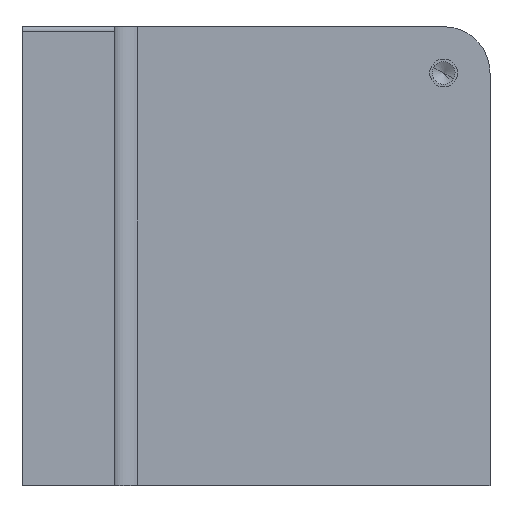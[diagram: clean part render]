
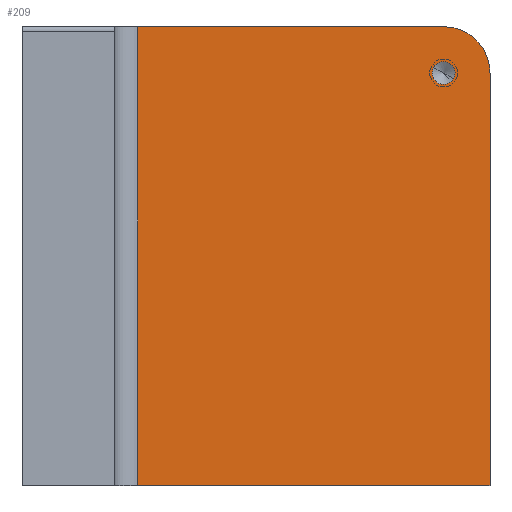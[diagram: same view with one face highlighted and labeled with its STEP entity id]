
A CAD part, top view. The second image highlights one B-rep face of the part: STEP entity #209.
In plain terms, the highlighted planar face has unit normal (0, 0, 1).
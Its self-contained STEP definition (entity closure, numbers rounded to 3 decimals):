
#144=CARTESIAN_POINT('Axis2P3D Location',(0.,0.,20.)) ;
#149=CARTESIAN_POINT('Line Origine',(63.,0.,20.)) ;
#153=CARTESIAN_POINT('Vertex',(25.,0.,20.)) ;
#155=CARTESIAN_POINT('Vertex',(101.,0.,20.)) ;
#158=CARTESIAN_POINT('Line Origine',(101.,44.5,20.)) ;
#162=CARTESIAN_POINT('Vertex',(101.,89.,20.)) ;
#165=CARTESIAN_POINT('Axis2P3D Location',(91.,89.,20.)) ;
#169=CARTESIAN_POINT('Vertex',(91.,99.,20.)) ;
#172=CARTESIAN_POINT('Line Origine',(58.,99.,20.)) ;
#176=CARTESIAN_POINT('Vertex',(25.,99.,20.)) ;
#179=CARTESIAN_POINT('Line Origine',(25.,49.5,20.)) ;
#191=CARTESIAN_POINT('Axis2P3D Location',(91.,89.,20.)) ;
#195=CARTESIAN_POINT('Vertex',(88.842,90.179,20.)) ;
#197=CARTESIAN_POINT('Vertex',(93.158,87.821,20.)) ;
#200=CARTESIAN_POINT('Axis2P3D Location',(91.,89.,20.)) ;
#145=DIRECTION('Axis2P3D Direction',(0.,0.,1.)) ;
#146=DIRECTION('Axis2P3D XDirection',(1.,0.,0.)) ;
#150=DIRECTION('Vector Direction',(1.,0.,0.)) ;
#159=DIRECTION('Vector Direction',(0.,1.,0.)) ;
#166=DIRECTION('Axis2P3D Direction',(0.,0.,1.)) ;
#173=DIRECTION('Vector Direction',(-1.,0.,0.)) ;
#180=DIRECTION('Vector Direction',(0.,-1.,0.)) ;
#192=DIRECTION('Axis2P3D Direction',(0.,0.,1.)) ;
#201=DIRECTION('Axis2P3D Direction',(0.,0.,1.)) ;
#147=AXIS2_PLACEMENT_3D('Plane Axis2P3D',#144,#145,#146) ;
#167=AXIS2_PLACEMENT_3D('Circle Axis2P3D',#165,#166,$) ;
#193=AXIS2_PLACEMENT_3D('Circle Axis2P3D',#191,#192,$) ;
#202=AXIS2_PLACEMENT_3D('Circle Axis2P3D',#200,#201,$) ;
#185=ORIENTED_EDGE('',*,*,#157,.T.) ;
#186=ORIENTED_EDGE('',*,*,#164,.T.) ;
#187=ORIENTED_EDGE('',*,*,#171,.T.) ;
#188=ORIENTED_EDGE('',*,*,#178,.T.) ;
#189=ORIENTED_EDGE('',*,*,#183,.F.) ;
#206=ORIENTED_EDGE('',*,*,#199,.F.) ;
#207=ORIENTED_EDGE('',*,*,#204,.F.) ;
#208=FACE_BOUND('',#205,.T.) ;
#151=VECTOR('Line Direction',#150,1.) ;
#160=VECTOR('Line Direction',#159,1.) ;
#174=VECTOR('Line Direction',#173,1.) ;
#181=VECTOR('Line Direction',#180,1.) ;
#209=ADVANCED_FACE('PartBody',(#190,#208),#148,.T.) ;
#168=CIRCLE('generated circle',#167,10.) ;
#194=CIRCLE('generated circle',#193,2.459) ;
#203=CIRCLE('generated circle',#202,2.459) ;
#157=EDGE_CURVE('',#154,#156,#152,.T.) ;
#164=EDGE_CURVE('',#156,#163,#161,.T.) ;
#171=EDGE_CURVE('',#163,#170,#168,.T.) ;
#178=EDGE_CURVE('',#170,#177,#175,.T.) ;
#183=EDGE_CURVE('',#154,#177,#182,.F.) ;
#199=EDGE_CURVE('',#196,#198,#194,.T.) ;
#204=EDGE_CURVE('',#198,#196,#203,.T.) ;
#184=EDGE_LOOP('',(#185,#186,#187,#188,#189)) ;
#205=EDGE_LOOP('',(#206,#207)) ;
#190=FACE_OUTER_BOUND('',#184,.T.) ;
#152=LINE('Line',#149,#151) ;
#161=LINE('Line',#158,#160) ;
#175=LINE('Line',#172,#174) ;
#182=LINE('Line',#179,#181) ;
#148=PLANE('',#147) ;
#154=VERTEX_POINT('',#153) ;
#156=VERTEX_POINT('',#155) ;
#163=VERTEX_POINT('',#162) ;
#170=VERTEX_POINT('',#169) ;
#177=VERTEX_POINT('',#176) ;
#196=VERTEX_POINT('',#195) ;
#198=VERTEX_POINT('',#197) ;
